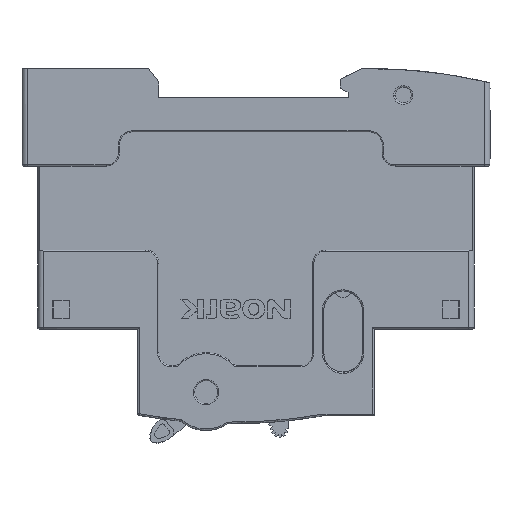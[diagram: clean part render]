
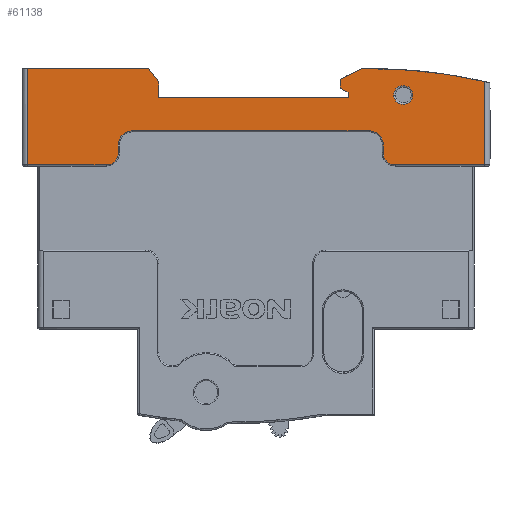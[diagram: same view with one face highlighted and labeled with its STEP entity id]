
A CAD part, front view. The second image highlights one B-rep face of the part: STEP entity #61138.
In plain terms, the highlighted planar face has unit normal (0, 1, 0).
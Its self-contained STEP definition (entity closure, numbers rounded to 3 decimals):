
#24808=DIRECTION('',(1.,0.,0.));
#24809=VECTOR('',#24808,15.);
#24810=CARTESIAN_POINT('',(-43.5,0.,31.2));
#24811=LINE('',#24810,#24809);
#25159=DIRECTION('',(1.,0.,0.));
#25160=VECTOR('',#25159,45.);
#25161=CARTESIAN_POINT('',(-23.5,0.,
37.7));
#25162=LINE('',#25161,#25160);
#25173=CARTESIAN_POINT('',(21.5,0.,35.));
#25174=DIRECTION('',(0.,-1.,0.));
#25175=DIRECTION('',(1.,0.,0.));
#25176=AXIS2_PLACEMENT_3D('',#25173,#25174,#25175);
#25181=CARTESIAN_POINT('',(26.5,0.,33.5));
#25182=DIRECTION('',(0.,1.,0.));
#25183=DIRECTION('',(0.,0.,-1.));
#25184=AXIS2_PLACEMENT_3D('',#25181,#25182,#25183);
#25189=CARTESIAN_POINT('',(22.,0.,-46.5));
#25190=DIRECTION('',(0.,1.,0.));
#25191=DIRECTION('',(0.,0.,1.));
#25192=AXIS2_PLACEMENT_3D('',#25189,#25190,#25191);
#25197=DIRECTION('',(0.894,0.,0.447));
#25198=VECTOR('',#25197,4.472);
#25199=CARTESIAN_POINT('',(16.,0.,47.5));
#25200=LINE('',#25199,#25198);
#25204=DIRECTION('',(-0.882,0.,0.471));
#25205=VECTOR('',#25204,1.7);
#25206=CARTESIAN_POINT('',(17.5,0.,45.));
#25207=LINE('',#25206,#25205);
#25211=DIRECTION('',(0.625,0.,-0.781));
#25212=VECTOR('',#25211,3.202);
#25213=CARTESIAN_POINT('',(-20.5,0.,49.5));
#25214=LINE('',#25213,#25212);
#25218=CARTESIAN_POINT('',(-28.5,0.,33.5));
#25219=DIRECTION('',(0.,1.,0.));
#25220=DIRECTION('',(1.,0.,0.));
#25221=AXIS2_PLACEMENT_3D('',#25218,#25219,#25220);
#25226=CARTESIAN_POINT('',(-23.5,0.,35.));
#25227=DIRECTION('',(0.,-1.,0.));
#25228=DIRECTION('',(0.,0.,1.));
#25229=AXIS2_PLACEMENT_3D('',#25226,#25227,#25228);
#25234=CARTESIAN_POINT('',(28.,0.,44.5));
#25235=DIRECTION('',(0.,-1.,0.));
#25236=DIRECTION('',(1.,0.,0.));
#25237=AXIS2_PLACEMENT_3D('',#25234,#25235,#25236);
#25242=CARTESIAN_POINT('',(28.,0.,44.5));
#25243=DIRECTION('',(0.,-1.,0.));
#25244=DIRECTION('',(-0.986,0.,-0.166));
#25245=AXIS2_PLACEMENT_3D('',#25242,#25243,#25244);
#25250=CARTESIAN_POINT('',(28.,0.,44.5));
#25251=DIRECTION('',(0.,-1.,0.));
#25252=DIRECTION('',(-1.,0.,0.));
#25253=AXIS2_PLACEMENT_3D('',#25250,#25251,#25252);
#25258=CARTESIAN_POINT('',(28.,0.,44.5));
#25259=DIRECTION('',(0.,-1.,0.));
#25260=DIRECTION('',(0.986,0.,0.166));
#25261=AXIS2_PLACEMENT_3D('',#25258,#25259,#25260);
#25282=DIRECTION('',(0.,0.,-1.));
#25283=VECTOR('',#25282,1.5);
#25284=CARTESIAN_POINT('',(24.2,0.,
35.));
#25285=LINE('',#25284,#25283);
#25312=DIRECTION('',(1.,0.,0.));
#25313=VECTOR('',#25312,17.);
#25314=CARTESIAN_POINT('',(26.5,0.,
31.2));
#25315=LINE('',#25314,#25313);
#35218=DIRECTION('',(-1.,0.,0.));
#35219=VECTOR('',#35218,36.);
#35220=CARTESIAN_POINT('',(17.5,0.,44.));
#35221=LINE('',#35220,#35219);
#35246=DIRECTION('',(0.,0.,1.));
#35247=VECTOR('',#35246,3.);
#35248=CARTESIAN_POINT('',(-18.5,0.,44.));
#35249=LINE('',#35248,#35247);
#35282=DIRECTION('',(1.,0.,0.));
#35283=VECTOR('',#35282,23.);
#35284=CARTESIAN_POINT('',(-43.5,0.,49.5));
#35285=LINE('',#35284,#35283);
#35354=DIRECTION('',(0.,0.,-1.));
#35355=VECTOR('',#35354,18.3);
#35356=CARTESIAN_POINT('',(-43.5,0.,49.5));
#35357=LINE('',#35356,#35355);
#35979=DIRECTION('',(0.,0.,-1.));
#35980=VECTOR('',#35979,1.);
#35981=CARTESIAN_POINT('',(17.5,0.,45.));
#35982=LINE('',#35981,#35980);
#36028=DIRECTION('',(0.,0.,-1.));
#36029=VECTOR('',#36028,1.7);
#36030=CARTESIAN_POINT('',(16.,0.,47.5));
#36031=LINE('',#36030,#36029);
#36056=DIRECTION('',(1.,0.,0.));
#36057=VECTOR('',#36056,2.);
#36058=CARTESIAN_POINT('',(20.,0.,49.5));
#36059=LINE('',#36058,#36057);
#36111=DIRECTION('',(0.,0.,1.));
#36112=VECTOR('',#36111,15.861);
#36113=CARTESIAN_POINT('',(43.5,0.,
31.2));
#36114=LINE('',#36113,#36112);
#53455=DIRECTION('',(0.,0.,1.));
#53456=VECTOR('',#53455,1.5);
#53457=CARTESIAN_POINT('',(-26.2,0.,
33.5));
#53458=LINE('',#53457,#53456);
#56302=CARTESIAN_POINT('',(43.5,0.,31.2));
#56304=VERTEX_POINT('',#56302);
#56306=CARTESIAN_POINT('',(43.5,0.,47.061));
#56307=VERTEX_POINT('',#56306);
#56870=CARTESIAN_POINT('',(22.,0.,49.5));
#56871=VERTEX_POINT('',#56870);
#56874=CARTESIAN_POINT('',(-23.5,0.,
37.7));
#56875=CARTESIAN_POINT('',(21.5,0.,
37.7));
#56876=VERTEX_POINT('',#56874);
#56877=VERTEX_POINT('',#56875);
#56878=CARTESIAN_POINT('',(24.2,0.,
35.));
#56879=VERTEX_POINT('',#56878);
#56880=CARTESIAN_POINT('',(24.2,0.,
33.5));
#56881=VERTEX_POINT('',#56880);
#56882=CARTESIAN_POINT('',(26.5,0.,
31.2));
#56883=VERTEX_POINT('',#56882);
#56884=CARTESIAN_POINT('',(20.,0.,49.5));
#56885=VERTEX_POINT('',#56884);
#56886=CARTESIAN_POINT('',(16.,0.,47.5));
#56887=VERTEX_POINT('',#56886);
#56888=CARTESIAN_POINT('',(16.,0.,45.8));
#56889=VERTEX_POINT('',#56888);
#56890=CARTESIAN_POINT('',(17.5,0.,45.));
#56891=VERTEX_POINT('',#56890);
#56892=CARTESIAN_POINT('',(17.5,0.,44.));
#56893=VERTEX_POINT('',#56892);
#56894=CARTESIAN_POINT('',(-18.5,0.,44.));
#56895=VERTEX_POINT('',#56894);
#56896=CARTESIAN_POINT('',(-18.5,0.,47.));
#56897=VERTEX_POINT('',#56896);
#56898=CARTESIAN_POINT('',(-20.5,0.,49.5));
#56899=VERTEX_POINT('',#56898);
#56900=CARTESIAN_POINT('',(-43.5,0.,49.5));
#56901=VERTEX_POINT('',#56900);
#56902=CARTESIAN_POINT('',(-43.5,0.,31.2));
#56903=VERTEX_POINT('',#56902);
#56904=CARTESIAN_POINT('',(-28.5,0.,
31.2));
#56905=VERTEX_POINT('',#56904);
#56906=CARTESIAN_POINT('',(-26.2,0.,
33.5));
#56907=VERTEX_POINT('',#56906);
#56908=CARTESIAN_POINT('',(-26.2,0.,
35.));
#56909=VERTEX_POINT('',#56908);
#56910=CARTESIAN_POINT('',(29.8,0.,44.5));
#56911=CARTESIAN_POINT('',(29.775,0.,
44.8));
#56912=VERTEX_POINT('',#56910);
#56913=VERTEX_POINT('',#56911);
#56914=CARTESIAN_POINT('',(26.225,0.,
44.2));
#56915=VERTEX_POINT('',#56914);
#56916=CARTESIAN_POINT('',(26.2,0.,44.5));
#56917=VERTEX_POINT('',#56916);
#61081=CARTESIAN_POINT('',(0.,0.,40.35));
#61082=DIRECTION('',(0.,1.,0.));
#61083=DIRECTION('',(1.,0.,0.));
#61084=AXIS2_PLACEMENT_3D('',#61081,#61082,#61083);
#61085=PLANE('',#61084);
#61086=ORIENTED_EDGE('',*,*,#61071,.T.);
#61088=ORIENTED_EDGE('',*,*,#61087,.F.);
#61090=ORIENTED_EDGE('',*,*,#61089,.T.);
#61092=ORIENTED_EDGE('',*,*,#61091,.F.);
#61094=ORIENTED_EDGE('',*,*,#61093,.T.);
#61096=ORIENTED_EDGE('',*,*,#61095,.T.);
#61098=ORIENTED_EDGE('',*,*,#61097,.F.);
#61100=ORIENTED_EDGE('',*,*,#61099,.F.);
#61102=ORIENTED_EDGE('',*,*,#61101,.F.);
#61104=ORIENTED_EDGE('',*,*,#61103,.T.);
#61106=ORIENTED_EDGE('',*,*,#61105,.F.);
#61108=ORIENTED_EDGE('',*,*,#61107,.T.);
#61110=ORIENTED_EDGE('',*,*,#61109,.T.);
#61112=ORIENTED_EDGE('',*,*,#61111,.T.);
#61114=ORIENTED_EDGE('',*,*,#61113,.F.);
#61116=ORIENTED_EDGE('',*,*,#61115,.F.);
#61118=ORIENTED_EDGE('',*,*,#61117,.T.);
#61119=ORIENTED_EDGE('',*,*,#60899,.T.);
#61121=ORIENTED_EDGE('',*,*,#61120,.F.);
#61123=ORIENTED_EDGE('',*,*,#61122,.T.);
#61125=ORIENTED_EDGE('',*,*,#61124,.F.);
#61126=EDGE_LOOP('',(#61086,#61088,#61090,#61092,#61094,#61096,#61098,#61100,
#61102,#61104,#61106,#61108,#61110,#61112,#61114,#61116,#61118,#61119,#61121,
#61123,#61125));
#61127=FACE_OUTER_BOUND('',#61126,.F.);
#61129=ORIENTED_EDGE('',*,*,#61128,.F.);
#61131=ORIENTED_EDGE('',*,*,#61130,.F.);
#61133=ORIENTED_EDGE('',*,*,#61132,.F.);
#61135=ORIENTED_EDGE('',*,*,#61134,.F.);
#61136=EDGE_LOOP('',(#61129,#61131,#61133,#61135));
#61137=FACE_BOUND('',#61136,.F.);
#61138=ADVANCED_FACE('',(#61127,#61137),#61085,.T.);
#25177=CIRCLE('',#25176,2.7);
#25185=CIRCLE('',#25184,2.3);
#25193=CIRCLE('',#25192,96.);
#25222=CIRCLE('',#25221,2.3);
#25230=CIRCLE('',#25229,2.7);
#25238=CIRCLE('',#25237,1.8);
#25246=CIRCLE('',#25245,1.8);
#25254=CIRCLE('',#25253,1.8);
#25262=CIRCLE('',#25261,1.8);
#60899=EDGE_CURVE('',#56903,#56905,#24811,.T.);
#61071=EDGE_CURVE('',#56876,#56877,#25162,.T.);
#61087=EDGE_CURVE('',#56879,#56877,#25177,.T.);
#61089=EDGE_CURVE('',#56879,#56881,#25285,.T.);
#61091=EDGE_CURVE('',#56883,#56881,#25185,.T.);
#61093=EDGE_CURVE('',#56883,#56304,#25315,.T.);
#61095=EDGE_CURVE('',#56304,#56307,#36114,.T.);
#61097=EDGE_CURVE('',#56871,#56307,#25193,.T.);
#61099=EDGE_CURVE('',#56885,#56871,#36059,.T.);
#61101=EDGE_CURVE('',#56887,#56885,#25200,.T.);
#61103=EDGE_CURVE('',#56887,#56889,#36031,.T.);
#61105=EDGE_CURVE('',#56891,#56889,#25207,.T.);
#61107=EDGE_CURVE('',#56891,#56893,#35982,.T.);
#61109=EDGE_CURVE('',#56893,#56895,#35221,.T.);
#61111=EDGE_CURVE('',#56895,#56897,#35249,.T.);
#61113=EDGE_CURVE('',#56899,#56897,#25214,.T.);
#61115=EDGE_CURVE('',#56901,#56899,#35285,.T.);
#61117=EDGE_CURVE('',#56901,#56903,#35357,.T.);
#61120=EDGE_CURVE('',#56907,#56905,#25222,.T.);
#61122=EDGE_CURVE('',#56907,#56909,#53458,.T.);
#61124=EDGE_CURVE('',#56876,#56909,#25230,.T.);
#61128=EDGE_CURVE('',#56912,#56913,#25238,.T.);
#61130=EDGE_CURVE('',#56915,#56912,#25246,.T.);
#61132=EDGE_CURVE('',#56917,#56915,#25254,.T.);
#61134=EDGE_CURVE('',#56913,#56917,#25262,.T.);
